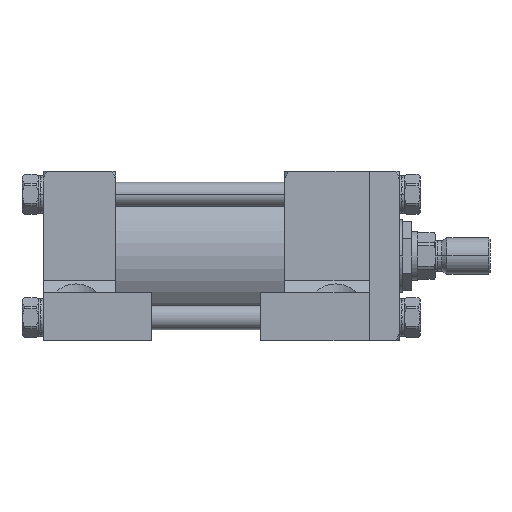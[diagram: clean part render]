
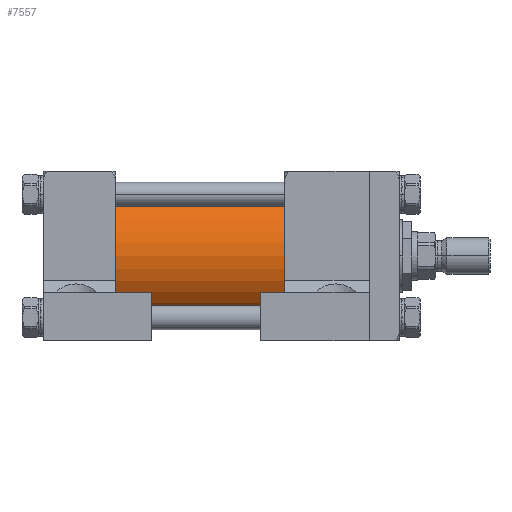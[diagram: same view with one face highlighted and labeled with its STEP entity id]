
A CAD part, front view. The second image highlights one B-rep face of the part: STEP entity #7557.
In plain terms, the highlighted cylindrical face has radius 38.1 mm (diameter 76.2 mm), a partial arc.
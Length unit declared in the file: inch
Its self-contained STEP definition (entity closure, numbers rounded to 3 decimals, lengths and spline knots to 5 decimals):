
#750 = VECTOR ( 'NONE', #49136, 39.37008 ) ;
#1607 = VERTEX_POINT ( 'NONE', #25459 ) ;
#3450 = DIRECTION ( 'NONE',  ( 0., 0., -1. ) ) ;
#4081 = AXIS2_PLACEMENT_3D ( 'NONE', #12584, #35961, #46390 ) ;
#5619 = VERTEX_POINT ( 'NONE', #8506 ) ;
#7215 = ORIENTED_EDGE ( 'NONE', *, *, #13076, .T. ) ;
#7557 = ADVANCED_FACE ( 'NONE', ( #50516 ), #26422, .T. ) ;
#8506 = CARTESIAN_POINT ( 'NONE',  ( -2.875, 0., -1.5 ) ) ;
#9985 = LINE ( 'NONE', #23868, #750 ) ;
#12579 = DIRECTION ( 'NONE',  ( 1., 0., 0. ) ) ;
#12584 = CARTESIAN_POINT ( 'NONE',  ( -2.875, 0., 0. ) ) ;
#13076 = EDGE_CURVE ( 'NONE', #25825, #5619, #9985, .T. ) ;
#13541 = EDGE_CURVE ( 'NONE', #1607, #19047, #37809, .T. ) ;
#15701 = CIRCLE ( 'NONE', #58129, 1.5 ) ;
#18073 = DIRECTION ( 'NONE',  ( 1., 0., 0. ) ) ;
#19047 = VERTEX_POINT ( 'NONE', #56606 ) ;
#21453 = CARTESIAN_POINT ( 'NONE',  ( -6.875, 0., 0. ) ) ;
#23868 = CARTESIAN_POINT ( 'NONE',  ( -6.875, 0., -1.5 ) ) ;
#25459 = CARTESIAN_POINT ( 'NONE',  ( -6.875, 0., 1.5 ) ) ;
#25825 = VERTEX_POINT ( 'NONE', #35310 ) ;
#26422 = CYLINDRICAL_SURFACE ( 'NONE', #52176, 1.5 ) ;
#26970 = VECTOR ( 'NONE', #27635, 39.37008 ) ;
#27635 = DIRECTION ( 'NONE',  ( 1., 0., 0. ) ) ;
#27940 = EDGE_LOOP ( 'NONE', ( #54266, #55939, #7215, #61549 ) ) ;
#31467 = EDGE_CURVE ( 'NONE', #1607, #25825, #15701, .T. ) ;
#31784 = CARTESIAN_POINT ( 'NONE',  ( -6.875, 0., 1.5 ) ) ;
#35310 = CARTESIAN_POINT ( 'NONE',  ( -6.875, 0., -1.5 ) ) ;
#35961 = DIRECTION ( 'NONE',  ( 1., 0., 0. ) ) ;
#36034 = EDGE_CURVE ( 'NONE', #19047, #5619, #48467, .T. ) ;
#36113 = CARTESIAN_POINT ( 'NONE',  ( -6.875, 0., 0. ) ) ;
#37809 = LINE ( 'NONE', #31784, #26970 ) ;
#46390 = DIRECTION ( 'NONE',  ( 0., 1., 0. ) ) ;
#46832 = DIRECTION ( 'NONE',  ( 0., 1., 0. ) ) ;
#48467 = CIRCLE ( 'NONE', #4081, 1.5 ) ;
#49136 = DIRECTION ( 'NONE',  ( 1., 0., 0. ) ) ;
#50516 = FACE_OUTER_BOUND ( 'NONE', #27940, .T. ) ;
#52176 = AXIS2_PLACEMENT_3D ( 'NONE', #21453, #12579, #3450 ) ;
#54266 = ORIENTED_EDGE ( 'NONE', *, *, #13541, .F. ) ;
#55939 = ORIENTED_EDGE ( 'NONE', *, *, #31467, .T. ) ;
#56606 = CARTESIAN_POINT ( 'NONE',  ( -2.875, 0., 1.5 ) ) ;
#58129 = AXIS2_PLACEMENT_3D ( 'NONE', #36113, #18073, #46832 ) ;
#61549 = ORIENTED_EDGE ( 'NONE', *, *, #36034, .F. ) ;
